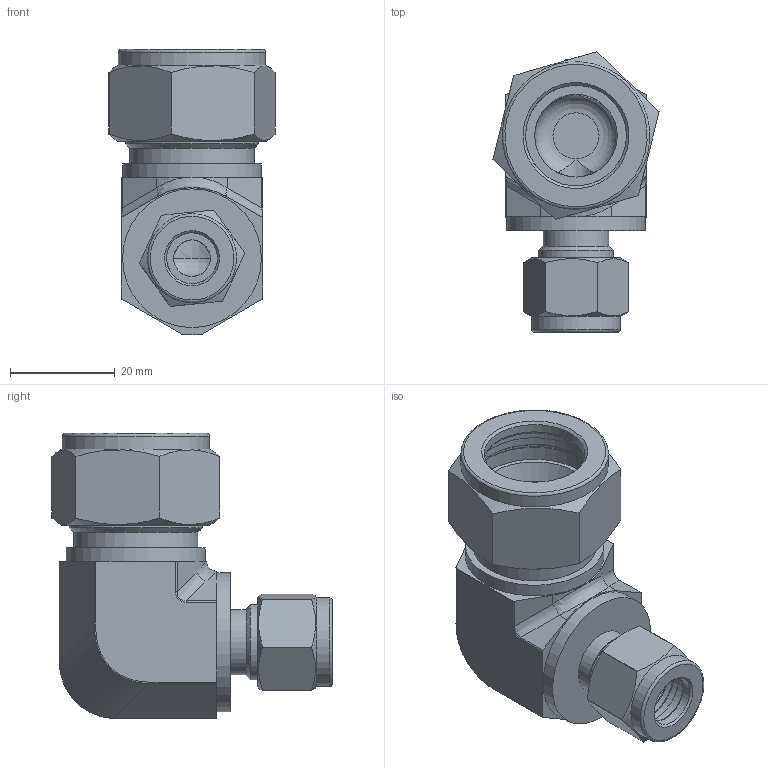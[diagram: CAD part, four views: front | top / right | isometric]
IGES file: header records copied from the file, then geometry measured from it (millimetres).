
Global section: file name: No Iges File Name specified; native system: Autodesk Inventor 2012; preprocessor: AutoDesk Inventor Iges Exporter R2012; author: 硅己绕,,1; organization: 1; date: 20150430.115422; units: millimetre
Bounding box: 31.72 x 53.53 x 54.48 mm (x, y, z)
Volume: 25652.4 mm3; surface area: 13418.9 mm2
Topology: 3 solids, 3 shells, 119 faces, 266 edges, 163 vertices
Faces by surface type: plane 39, cylinder 36, revolution 24, cone 8, bspline 8, torus 4
Full cylindrical faces by diameter (mm): 12.5 x1, 12.55 x1, 14.28 x1, 17 x1, 23.7 x2, 25.4 x1, 26.5 x2, 28.2 x1
